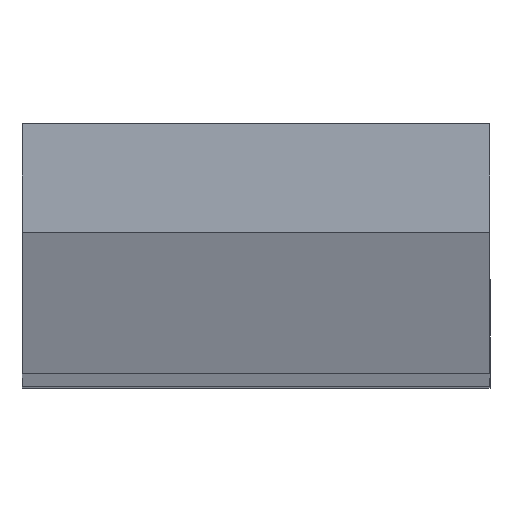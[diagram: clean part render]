
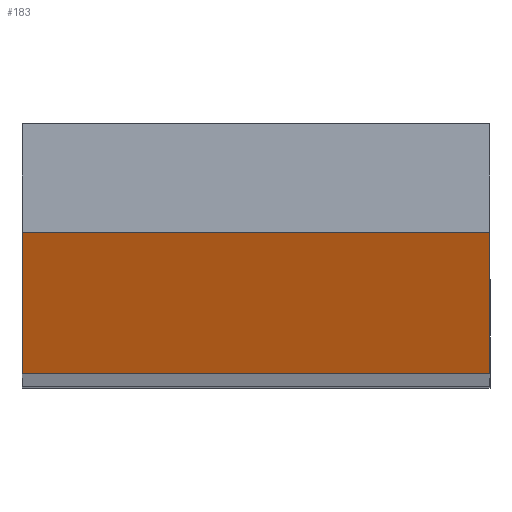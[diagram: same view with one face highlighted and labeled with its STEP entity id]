
A CAD part, top view. The second image highlights one B-rep face of the part: STEP entity #183.
In plain terms, the highlighted planar face has unit normal (0, -1, 0.009).
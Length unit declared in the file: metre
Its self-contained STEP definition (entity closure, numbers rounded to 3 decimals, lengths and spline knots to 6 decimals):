
#32=ORIENTED_EDGE('',*,*,#76,.T.);
#33=ORIENTED_EDGE('',*,*,#77,.F.);
#34=ORIENTED_EDGE('',*,*,#78,.F.);
#35=ORIENTED_EDGE('',*,*,#74,.T.);
#74=EDGE_CURVE('',#95,#94,#114,.T.);
#76=EDGE_CURVE('',#94,#96,#116,.T.);
#77=EDGE_CURVE('',#97,#96,#117,.T.);
#78=EDGE_CURVE('',#95,#97,#118,.T.);
#94=VERTEX_POINT('',#287);
#95=VERTEX_POINT('',#289);
#96=VERTEX_POINT('',#293);
#97=VERTEX_POINT('',#295);
#114=LINE('',#288,#138);
#116=LINE('',#292,#140);
#117=LINE('',#294,#141);
#118=LINE('',#296,#142);
#138=VECTOR('',#237,1.);
#140=VECTOR('',#241,1.);
#141=VECTOR('',#242,1.);
#142=VECTOR('',#243,1.);
#153=EDGE_LOOP('',(#32,#33,#34,#35));
#163=FACE_BOUND('',#153,.T.);
#173=PLANE('',#206);
#183=ADVANCED_FACE('',(#163),#173,.F.);
#206=AXIS2_PLACEMENT_3D('',#291,#239,#240);
#237=DIRECTION('',(1.,0.,0.));
#239=DIRECTION('',(0.,1.,-0.009));
#240=DIRECTION('',(0.,-0.009,-1.));
#241=DIRECTION('',(0.,0.009,1.));
#242=DIRECTION('',(1.,0.,0.));
#243=DIRECTION('',(0.,0.009,1.));
#287=CARTESIAN_POINT('',(-0.037717,0.032229,0.033257));
#288=CARTESIAN_POINT('',(-0.043717,0.032229,0.033257));
#289=CARTESIAN_POINT('',(-0.043717,0.032229,0.033257));
#291=CARTESIAN_POINT('',(-0.043717,0.03317,0.134322));
#292=CARTESIAN_POINT('',(-0.037717,0.03317,0.134322));
#293=CARTESIAN_POINT('',(-0.037717,0.033757,0.197328));
#294=CARTESIAN_POINT('',(-0.043717,0.033757,0.197328));
#295=CARTESIAN_POINT('',(-0.043717,0.033757,0.197328));
#296=CARTESIAN_POINT('',(-0.043717,0.03317,0.134322));
